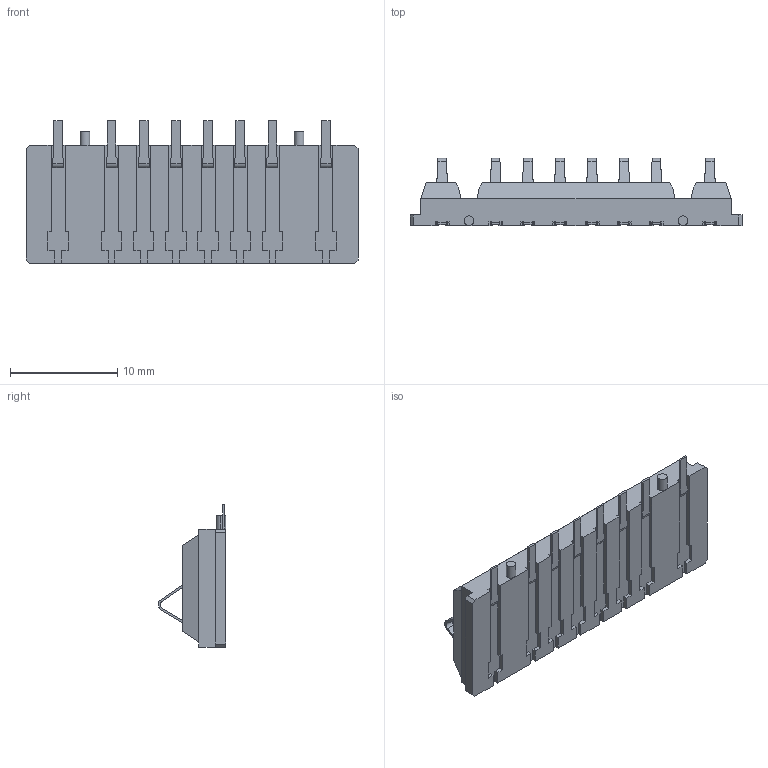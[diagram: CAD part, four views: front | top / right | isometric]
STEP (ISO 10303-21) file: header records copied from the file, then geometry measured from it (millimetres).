
FILE_DESCRIPTION(('Creo Elements/Direct Modeling STEP Export'),'2;1');
FILE_NAME('P39574_GD02-08-1F.stp','2023-02-27T11:33:12',(''),(''),'Creo Elements/Direct Modeling STEP processor for AP214 (Solid Model)','Creo Elements/Direct Modeling 20.4A 18-Oct-2021 (C) Parametric Technology GmbH','');
FILE_SCHEMA(('AUTOMOTIVE_DESIGN { 1 0 10303 214 1 1 1 1 }'));
Length unit declared in the file: millimetre
Products named in the file (2): GD02-08-1F
Assembly tree (1 placements, depth 2):
  GD02-08-1F
    GD02-08-1F
Bounding box: 31 x 6.3 x 13.3 mm (x, y, z)
Volume: 1122.8 mm3; surface area: 1217.1 mm2
Topology: 1 solids, 1 shells, 407 faces, 1070 edges, 674 vertices
Faces by surface type: plane 355, cylinder 52
Entity records: 12124 total; most frequent: ORIENTED_EDGE 2140, CARTESIAN_POINT 2112, DIRECTION 1938, EDGE_CURVE 1070, VECTOR 938, LINE 938, VERTEX_POINT 674, AXIS2_PLACEMENT_3D 500
